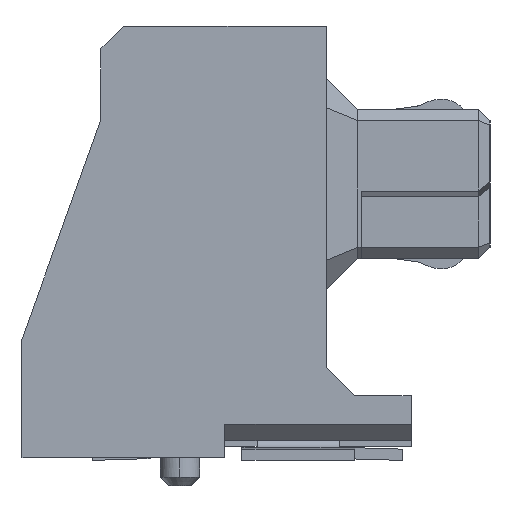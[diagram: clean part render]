
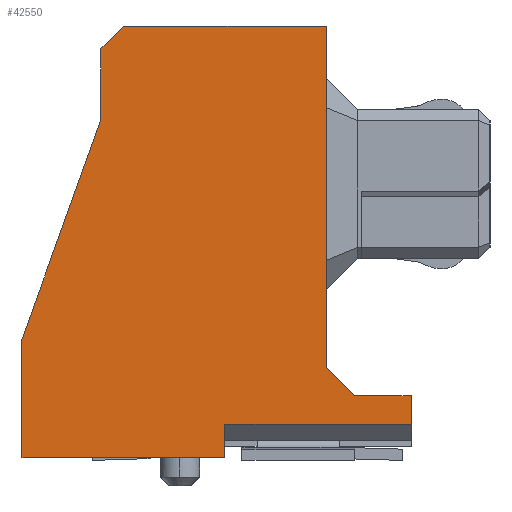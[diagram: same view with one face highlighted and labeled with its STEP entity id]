
A CAD part, left-side view. The second image highlights one B-rep face of the part: STEP entity #42550.
In plain terms, the highlighted planar face has unit normal (-1, 0, 0) as drawn and (0, 0, 1) by its records, which use the part's own axes.
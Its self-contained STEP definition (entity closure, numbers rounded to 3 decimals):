
#25160=CARTESIAN_POINT('',(24.287,-57.914,28.5));
#25170=VERTEX_POINT('',#25160);
#25200=CARTESIAN_POINT('',(45.103,0.,28.5));
#25210=DIRECTION('',(0.338,0.941,0.));
#25220=VECTOR('',#25210,1.);
#25230=LINE('',#25200,#25220);
#25240=CARTESIAN_POINT('',(22.887,-61.809,28.5));
#25250=VERTEX_POINT('',#25240);
#25260=EDGE_CURVE('',#25250,#25170,#25230,.T.);
#26360=CARTESIAN_POINT('',(29.787,-62.809,28.5));
#26370=VERTEX_POINT('',#26360);
#26400=CARTESIAN_POINT('',(0.,-62.809,28.5));
#26410=DIRECTION('',(1.,0.,0.));
#26420=VECTOR('',#26410,1.);
#26430=LINE('',#26400,#26420);
#26440=CARTESIAN_POINT('',(28.787,-62.809,28.5));
#26450=VERTEX_POINT('',#26440);
#26460=EDGE_CURVE('',#26450,#26370,#26430,.T.);
#28350=CARTESIAN_POINT('',(28.287,-62.309,28.5));
#28360=VERTEX_POINT('',#28350);
#28390=CARTESIAN_POINT('',(28.287,0.,28.5));
#28400=DIRECTION('',(0.,1.,0.));
#28410=VECTOR('',#28400,1.);
#28420=LINE('',#28390,#28410);
#28430=CARTESIAN_POINT('',(28.287,-56.259,28.5));
#28440=VERTEX_POINT('',#28430);
#28450=EDGE_CURVE('',#28360,#28440,#28420,.T.);
#35850=CARTESIAN_POINT('',(24.287,-56.659,28.5));
#35860=VERTEX_POINT('',#35850);
#35890=CARTESIAN_POINT('',(24.287,0.,28.5));
#35900=DIRECTION('',(0.,1.,0.));
#35910=VECTOR('',#35900,1.);
#35920=LINE('',#35890,#35910);
#35930=EDGE_CURVE('',#25170,#35860,#35920,.T.);
#37630=CARTESIAN_POINT('',(26.487,0.,28.5));
#37640=DIRECTION('',(0.,-1.,0.));
#37650=VECTOR('',#37640,1.);
#37660=LINE('',#37630,#37650);
#37670=CARTESIAN_POINT('',(26.487,-63.314,28.5));
#37680=VERTEX_POINT('',#37670);
#37690=CARTESIAN_POINT('',(26.487,-63.909,28.5));
#37700=VERTEX_POINT('',#37690);
#37710=EDGE_CURVE('',#37680,#37700,#37660,.T.);
#41950=CARTESIAN_POINT('',(0.,0.,28.5));
#41960=DIRECTION('',(0.,0.,1.));
#41970=DIRECTION('',(1.,0.,0.));
#41980=AXIS2_PLACEMENT_3D('',#41950,#41960,#41970);
#41990=PLANE('',#41980);
#42000=CARTESIAN_POINT('',(22.887,0.,28.5));
#42010=DIRECTION('',(0.,1.,0.));
#42020=VECTOR('',#42010,1.);
#42030=LINE('',#42000,#42020);
#42040=CARTESIAN_POINT('',(22.887,-63.909,28.5));
#42050=VERTEX_POINT('',#42040);
#42060=EDGE_CURVE('',#42050,#25250,#42030,.T.);
#42070=ORIENTED_EDGE('',*,*,#42060,.F.);
#42080=ORIENTED_EDGE('',*,*,#25260,.F.);
#42090=ORIENTED_EDGE('',*,*,#35930,.F.);
#42100=CARTESIAN_POINT('',(80.946,0.,28.5));
#42110=DIRECTION('',(0.707,0.707,0.));
#42120=VECTOR('',#42110,1.);
#42130=LINE('',#42100,#42120);
#42140=CARTESIAN_POINT('',(24.687,-56.259,28.5));
#42150=VERTEX_POINT('',#42140);
#42160=EDGE_CURVE('',#35860,#42150,#42130,.T.);
#42170=ORIENTED_EDGE('',*,*,#42160,.F.);
#42180=CARTESIAN_POINT('',(0.,-56.259,28.5));
#42190=DIRECTION('',(1.,0.,0.));
#42200=VECTOR('',#42190,1.);
#42210=LINE('',#42180,#42200);
#42220=EDGE_CURVE('',#42150,#28440,#42210,.T.);
#42230=ORIENTED_EDGE('',*,*,#42220,.F.);
#42240=ORIENTED_EDGE('',*,*,#28450,.T.);
#42250=CARTESIAN_POINT('',(0.,-34.023,28.5));
#42260=DIRECTION('',(0.707,-0.707,0.));
#42270=VECTOR('',#42260,1.);
#42280=LINE('',#42250,#42270);
#42290=EDGE_CURVE('',#28360,#26450,#42280,.T.);
#42300=ORIENTED_EDGE('',*,*,#42290,.F.);
#42310=ORIENTED_EDGE('',*,*,#26460,.F.);
#42320=CARTESIAN_POINT('',(29.787,0.,28.5));
#42330=DIRECTION('',(0.,-1.,0.));
#42340=VECTOR('',#42330,1.);
#42350=LINE('',#42320,#42340);
#42360=CARTESIAN_POINT('',(29.787,-63.314,28.5));
#42370=VERTEX_POINT('',#42360);
#42380=EDGE_CURVE('',#26370,#42370,#42350,.T.);
#42390=ORIENTED_EDGE('',*,*,#42380,.F.);
#42400=CARTESIAN_POINT('',(0.,-63.314,28.5));
#42410=DIRECTION('',(1.,0.,0.));
#42420=VECTOR('',#42410,1.);
#42430=LINE('',#42400,#42420);
#42440=EDGE_CURVE('',#37680,#42370,#42430,.T.);
#42450=ORIENTED_EDGE('',*,*,#42440,.T.);
#42460=ORIENTED_EDGE('',*,*,#37710,.F.);
#42470=CARTESIAN_POINT('',(0.,-63.909,28.5));
#42480=DIRECTION('',(1.,0.,0.));
#42490=VECTOR('',#42480,1.);
#42500=LINE('',#42470,#42490);
#42510=EDGE_CURVE('',#42050,#37700,#42500,.T.);
#42520=ORIENTED_EDGE('',*,*,#42510,.T.);
#42530=EDGE_LOOP('',(#42520,#42460,#42450,#42390,#42310,#42300,#42240,
#42230,#42170,#42090,#42080,#42070));
#42540=FACE_OUTER_BOUND('',#42530,.T.);
#42550=ADVANCED_FACE('',(#42540),#41990,.T.);
